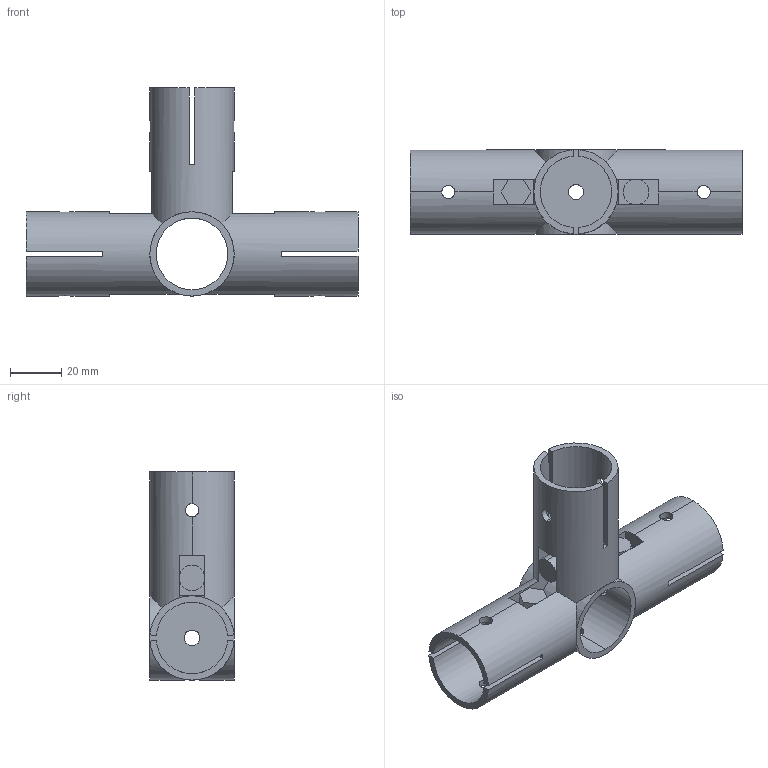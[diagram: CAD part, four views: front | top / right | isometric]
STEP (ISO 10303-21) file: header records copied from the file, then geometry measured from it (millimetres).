
FILE_DESCRIPTION (( 'STEP AP214' ), '1' );
FILE_NAME ('NSJ-3.STEP', '2023-10-11T06:41:25', ( 'catia' ), ( 'HP Inc.' ), 'SwSTEP 2.0', 'SolidWorks 2021', '' );
FILE_SCHEMA (( 'AUTOMOTIVE_DESIGN' ));
Length unit declared in the file: millimetre
Products named in the file (1): NSJ-3
Bounding box: 130 x 33 x 81.5 mm (x, y, z)
Volume: 73503.5 mm3; surface area: 35486.6 mm2
Topology: 1 solids, 1 shells, 121 faces, 369 edges, 238 vertices
Faces by surface type: plane 70, cylinder 51
Entity records: 5273 total; most frequent: CARTESIAN_POINT 1949, ORIENTED_EDGE 738, DIRECTION 643, EDGE_CURVE 369, VERTEX_POINT 238, VECTOR 215, LINE 215, AXIS2_PLACEMENT_3D 214
